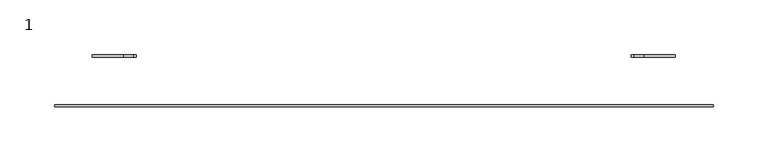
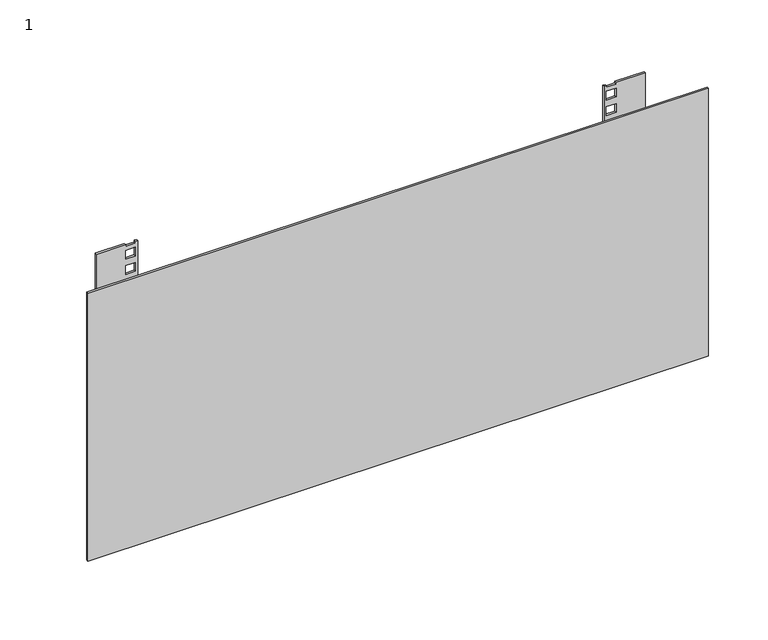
"""IFC4 building model written with IfcOpenShell, lengths in millimetres: proxy geometry, 1 : 6U 450мм металлическая дверь."""

from ifc_helpers import new_model, si_unit, frame, origin, place, context, project, spatial, polyline, outline, extrude, source, transform, mapped, element, save


def proxy_1_fbcb8cc0(model_context):
    return source(origin(), model_context, "Body", "SweptSolid", [
        extrude(outline(polyline([(20.4675, 225.3), (20.4675, 265.3), (314.4675, 265.3), (314.4675, 237.05), (312.7675, 237.05), (312.7675, 227.55), (314.4675, 227.55), (314.4675, 225.3), (20.4675, 225.3)]), holes=[polyline([(55.0175, 227.55), (55.0175, 237.05), (46.0675, 237.05), (46.0675, 227.55), (55.0175, 227.55)]), polyline([(70.6675, 227.55), (70.6675, 237.05), (61.7175, 237.05), (61.7175, 227.55), (70.6675, 227.55)]), polyline([(86.3175, 227.55), (86.3175, 237.05), (77.3675, 237.05), (77.3675, 227.55), (86.3175, 227.55)]), polyline([(99.4675, 237.05), (90.5175, 237.05), (90.5175, 227.55), (99.4675, 227.55), (99.4675, 237.05)]), polyline([(115.1175, 237.05), (106.1675, 237.05), (106.1675, 227.55), (115.1175, 227.55), (115.1175, 237.05)]), polyline([(130.7675, 237.05), (121.8175, 237.05), (121.8175, 227.55), (130.7675, 227.55), (130.7675, 237.05)]), polyline([(143.9175, 237.05), (134.9675, 237.05), (134.9675, 227.55), (143.9175, 227.55), (143.9175, 237.05)]), polyline([(159.5675, 237.05), (150.6175, 237.05), (150.6175, 227.55), (159.5675, 227.55), (159.5675, 237.05)]), polyline([(175.2175, 237.05), (166.2675, 237.05), (166.2675, 227.55), (175.2175, 227.55), (175.2175, 237.05)]), polyline([(188.3675, 237.05), (179.4175, 237.05), (179.4175, 227.55), (188.3675, 227.55), (188.3675, 237.05)]), polyline([(204.0175, 237.05), (195.0675, 237.05), (195.0675, 227.55), (204.0175, 227.55), (204.0175, 237.05)]), polyline([(219.6675, 237.05), (210.7175, 237.05), (210.7175, 227.55), (219.6675, 227.55), (219.6675, 237.05)]), polyline([(232.8175, 237.05), (223.8675, 237.05), (223.8675, 227.55), (232.8175, 227.55), (232.8175, 237.05)]), polyline([(248.4675, 237.05), (239.5175, 237.05), (239.5175, 227.55), (248.4675, 227.55), (248.4675, 237.05)]), polyline([(264.1175, 237.05), (255.1675, 237.05), (255.1675, 227.55), (264.1175, 227.55), (264.1175, 237.05)]), polyline([(277.2675, 237.05), (268.3175, 237.05), (268.3175, 227.55), (277.2675, 227.55), (277.2675, 237.05)]), polyline([(292.9175, 237.05), (283.9675, 237.05), (283.9675, 227.55), (292.9175, 227.55), (292.9175, 237.05)]), polyline([(308.5675, 237.05), (299.6175, 237.05), (299.6175, 227.55), (308.5675, 227.55), (308.5675, 237.05)])]), frame((0.0, -179.6777479, 0.0), z_axis=(0.0, 1.0, 0.0), x_axis=(0.0, 0.0, 1.0)), (0.0, 0.0, 1.0), 2.0),
        extrude(outline(polyline([(20.4675, -265.7), (20.4675, -225.7), (314.4675, -225.7), (314.4675, -227.95), (312.7675, -227.95), (312.7675, -237.45), (314.4675, -237.45), (314.4675, -265.7), (20.4675, -265.7)]), holes=[polyline([(55.0175, -237.45), (55.0175, -227.95), (46.0675, -227.95), (46.0675, -237.45), (55.0175, -237.45)]), polyline([(70.6675, -237.45), (70.6675, -227.95), (61.7175, -227.95), (61.7175, -237.45), (70.6675, -237.45)]), polyline([(86.3175, -237.45), (86.3175, -227.95), (77.3675, -227.95), (77.3675, -237.45), (86.3175, -237.45)]), polyline([(90.5175, -237.45), (99.4675, -237.45), (99.4675, -227.95), (90.5175, -227.95), (90.5175, -237.45)]), polyline([(106.1675, -237.45), (115.1175, -237.45), (115.1175, -227.95), (106.1675, -227.95), (106.1675, -237.45)]), polyline([(121.8175, -237.45), (130.7675, -237.45), (130.7675, -227.95), (121.8175, -227.95), (121.8175, -237.45)]), polyline([(134.9675, -237.45), (143.9175, -237.45), (143.9175, -227.95), (134.9675, -227.95), (134.9675, -237.45)]), polyline([(150.6175, -237.45), (159.5675, -237.45), (159.5675, -227.95), (150.6175, -227.95), (150.6175, -237.45)]), polyline([(166.2675, -237.45), (175.2175, -237.45), (175.2175, -227.95), (166.2675, -227.95), (166.2675, -237.45)]), polyline([(179.4175, -237.45), (188.3675, -237.45), (188.3675, -227.95), (179.4175, -227.95), (179.4175, -237.45)]), polyline([(195.0675, -237.45), (204.0175, -237.45), (204.0175, -227.95), (195.0675, -227.95), (195.0675, -237.45)]), polyline([(210.7175, -237.45), (219.6675, -237.45), (219.6675, -227.95), (210.7175, -227.95), (210.7175, -237.45)]), polyline([(223.8675, -237.45), (232.8175, -237.45), (232.8175, -227.95), (223.8675, -227.95), (223.8675, -237.45)]), polyline([(239.5175, -237.45), (248.4675, -237.45), (248.4675, -227.95), (239.5175, -227.95), (239.5175, -237.45)]), polyline([(255.1675, -237.45), (264.1175, -237.45), (264.1175, -227.95), (255.1675, -227.95), (255.1675, -237.45)]), polyline([(268.3175, -237.45), (277.2675, -237.45), (277.2675, -227.95), (268.3175, -227.95), (268.3175, -237.45)]), polyline([(283.9675, -237.45), (292.9175, -237.45), (292.9175, -227.95), (283.9675, -227.95), (283.9675, -237.45)]), polyline([(299.6175, -237.45), (308.5675, -237.45), (308.5675, -227.95), (299.6175, -227.95), (299.6175, -237.45)])]), frame((0.0, -179.6777479, 0.0), z_axis=(0.0, 1.0, 0.0), x_axis=(0.0, 0.0, 1.0)), (0.0, 0.0, 1.0), 2.0),
        extrude(outline(polyline([(-300.0, -223.0), (300.0, -223.0), (300.0, -225.0), (-300.0, -225.0), (-300.0, -223.0)])), frame((0.0, 0.0, 40.0), z_axis=(0.0, 0.0, 1.0), x_axis=(1.0, 0.0, 0.0)), (0.0, 0.0, 1.0), 274.0),
    ])


if __name__ == "__main__":
    model = new_model("IFC4")
    model_context = context("Model", 3, world=origin())
    ifc_project = project(units=[si_unit("LENGTHUNIT", "METRE", prefix="MILLI")], contexts=[model_context])
    site = spatial("IfcSite", under=ifc_project)
    building = spatial("IfcBuilding", under=site)
    placement = place(None, origin())
    proxy_1_shape = proxy_1_fbcb8cc0(model_context)
    element("IfcBuildingElementProxy", 1, Name="1 : 6U 450мм металлическая дверь", ObjectType="1 : 6U 450мм металлическая дверь", at=placement, inside=building, context=model_context, shape_type="MappedRepresentation", body=[
        mapped(proxy_1_shape, transform((0.0, 0.0, 0.0), x_axis=(1.0, 0.0, 0.0), y_axis=(0.0, 1.0, 0.0), z_axis=(0.0, 0.0, 1.0))),
    ])
    save(model, "model.ifc")
